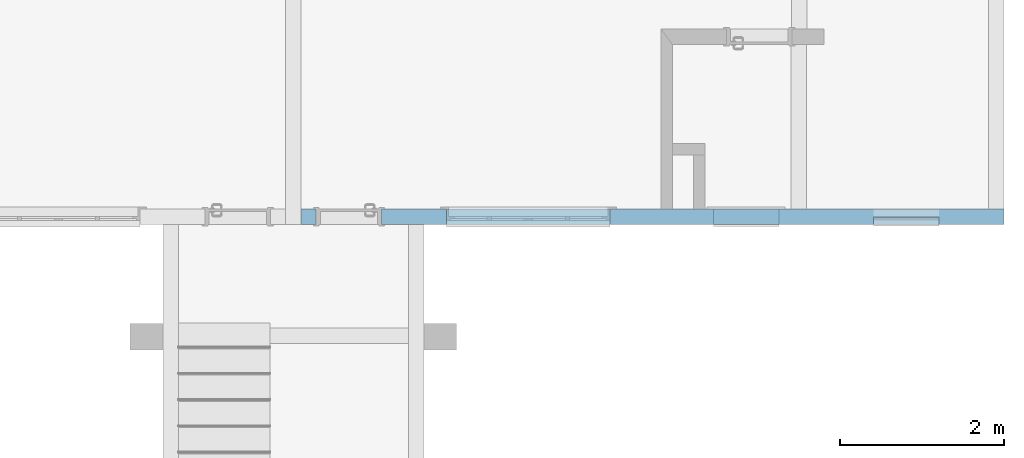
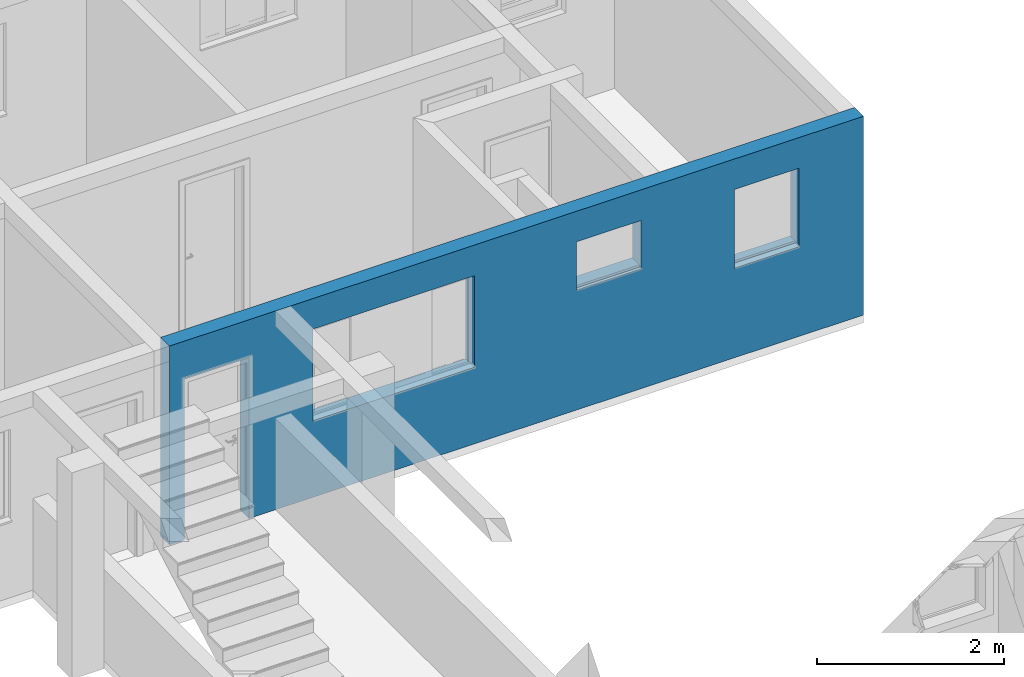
# One storey, part 27 of 43: 1 wall, 4 openings.
"""IFC2X3 building model written with IfcOpenShell, lengths in millimetres."""

from ifc_helpers import new_model, entity, si_unit, converted_unit, derived_unit, money_unit, direction, frame, origin_with_axes, origin_2d_with_axis, place, context, subcontext, project, spatial, polyline, rectangle, outline, extrude, material, layer, layer_set, layer_usage, type_object, element, save


model = new_model("IFC2X3")

# Units and contexts
model_context = context("Model", 3, precision=0.01, world=origin_with_axes(), true_north=direction((0.0, 1.0)))
body_context = subcontext(model_context, "Body", "Model", "MODEL_VIEW")
ifc_project = project(units=[si_unit("LENGTHUNIT", "METRE", prefix="MILLI"), si_unit("AREAUNIT", "SQUARE_METRE"), si_unit("VOLUMEUNIT", "CUBIC_METRE"), converted_unit("PLANEANGLEUNIT", "DEGREE", entity("IfcPlaneAngleMeasure", 0.0174532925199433), si_unit("PLANEANGLEUNIT", "RADIAN"), dimensions=[0, 0, 0, 0, 0, 0, 0]), money_unit("USD"), converted_unit("TIMEUNIT", "Year", entity("IfcTimeMeasure", 31557600.0), si_unit("TIMEUNIT", "SECOND"), dimensions=[0, 0, 1, 0, 0, 0, 0]), si_unit("MASSUNIT", "GRAM", prefix="KILO"), si_unit("THERMODYNAMICTEMPERATUREUNIT", "DEGREE_CELSIUS"), si_unit("LUMINOUSINTENSITYUNIT", "LUMEN"), si_unit("ENERGYUNIT", "JOULE", prefix="MEGA"), derived_unit("THERMALCONDUCTANCEUNIT", [(si_unit("POWERUNIT", "WATT"), 1), (si_unit("LENGTHUNIT", "METRE"), -1), (si_unit("THERMODYNAMICTEMPERATUREUNIT", "KELVIN"), -1)]), derived_unit("SPECIFICHEATCAPACITYUNIT", [(si_unit("ENERGYUNIT", "JOULE"), 1), (si_unit("MASSUNIT", "GRAM", prefix="KILO"), -1), (si_unit("THERMODYNAMICTEMPERATUREUNIT", "KELVIN"), -1)]), derived_unit("MASSDENSITYUNIT", [(si_unit("MASSUNIT", "GRAM", prefix="KILO"), 1), (si_unit("VOLUMEUNIT", "CUBIC_METRE"), -1)])], contexts=[model_context])

# Site, building, storey
site_placement = place(None, origin_with_axes())
site = spatial("IfcSite", under=ifc_project, at=site_placement, Name="Local", CompositionType="ELEMENT")
building_placement = place(site_placement, origin_with_axes())
building = spatial("IfcBuilding", under=site, at=building_placement, Name="Construção", CompositionType="ELEMENT")
storey_placement = place(building_placement, origin_with_axes())
storey = spatial("IfcBuildingStorey", under=building, at=storey_placement, Name="Pavimento Tipo", CompositionType="ELEMENT", Elevation=0.0)

# Wall, openings
ifc_material = material(Name="Concreto - Estrutural")
ifc_layer = layer(ifc_material, 190.0, ventilated="UNKNOWN")
ifc_layer_set = layer_set([ifc_layer], Name="Concreto - Estrutural 190")
ifc_layer_usage = layer_usage(ifc_layer_set, "AXIS2", "POSITIVE", 0.0)
wall_type = type_object("IfcWallType", Name="Concreto - Estrutural 190", PredefinedType="NOTDEFINED")
wall_placement = place(storey_placement, frame((72476.96486497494, 5832.461520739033, 0.0), z_axis=(0.0, 0.0, 1.0), x_axis=(-1.0, 0.0, 0.0)))
wall = element("IfcWallStandardCase", 1, at=wall_placement, inside=storey, type_object=wall_type, material=ifc_layer_usage, Name="Apartamento 1 - Parede-001", context=body_context, shape_type="SweptSolid", body=[
    extrude(outline(polyline([(0.0, 0.0), (8584.765133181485, 0.0), (8584.765133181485, 190.0000000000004), (0.0, 190.0000000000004), (0.0, 0.0)])), origin_with_axes(), (0.0, 0.0, 1.0), 2600.0),
])
opening_1_placement = place(wall_placement, frame((1195.000000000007, 0.0, 1200.0), z_axis=(0.0, 0.0, 1.0), x_axis=(1.0, 0.0, 0.0)))
element("IfcOpeningElement", 2, at=opening_1_placement, cuts=wall, Name="Apartamento 1 - J03", context=body_context, shape_type="SweptSolid", body=[
    extrude(rectangle(XDim=800.0000000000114, YDim=1000.0, at=origin_2d_with_axis()), frame((0.0, 139.9999999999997, 500.0), z_axis=(0.0, -1.0, 0.0), x_axis=(-1.0, 0.0, 0.0)), (0.0, 0.0, 1.0), 330.0),
    extrude(rectangle(XDim=800.0000000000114, YDim=1000.0, at=origin_2d_with_axis()), frame((0.0, 139.9999999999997, 500.0), z_axis=(0.0, 1.0, 0.0), x_axis=(-1.0, 0.0, 0.0)), (0.0, 0.0, 1.0), 240.0),
    extrude(rectangle(XDim=800.0000000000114, YDim=30.00000000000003, at=origin_2d_with_axis()), frame((0.0, 104.9999999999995, -14.9999999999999), z_axis=(0.0, 1.0, 0.0), x_axis=(-1.0, 0.0, 0.0)), (0.0, 0.0, 1.0), 225.0),
])
opening_2_placement = place(wall_placement, frame((3149.999999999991, 0.0, 1600.0), z_axis=(0.0, 0.0, 1.0), x_axis=(1.0, 0.0, 0.0)))
element("IfcOpeningElement", 3, at=opening_2_placement, cuts=wall, Name="Apartamento 1 - J02", context=body_context, shape_type="SweptSolid", body=[
    extrude(rectangle(XDim=800.0000000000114, YDim=600.0000000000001, at=origin_2d_with_axis()), frame((0.0, -190.0000000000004, 300.0000000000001), z_axis=(0.0, -1.0, 0.0), x_axis=(-1.0, 0.0, 0.0)), (0.0, 0.0, -1.0), 570.0000000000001),
    extrude(rectangle(XDim=800.0000000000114, YDim=30.00000000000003, at=origin_2d_with_axis()), frame((0.0, 155.0000000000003, -14.9999999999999), z_axis=(0.0, 1.0, 0.0), x_axis=(-1.0, 0.0, 0.0)), (0.0, 0.0, 1.0), 225.0),
    extrude(rectangle(XDim=949.9999999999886, YDim=750.0000000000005, at=origin_2d_with_axis()), frame((0.0, 0.0, 300.0000000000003), z_axis=(0.0, -1.0, 0.0), x_axis=(-1.0, 0.0, 0.0)), (0.0, 0.0, 1.0), 190.0),
])
opening_3_placement = place(wall_placement, frame((5810.000000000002, 0.0, 1000.0), z_axis=(0.0, 0.0, 1.0), x_axis=(1.0, 0.0, 0.0)))
element("IfcOpeningElement", 4, at=opening_3_placement, cuts=wall, Name="Apartamento 1 - J01", context=body_context, shape_type="SweptSolid", body=[
    extrude(rectangle(XDim=2000.0, YDim=1200.0, at=origin_2d_with_axis()), frame((0.0, 139.9999999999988, 600.0000000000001), z_axis=(0.0, 1.0, 0.0), x_axis=(1.0, 0.0, 0.0)), (0.0, 0.0, -1.0), 330.0),
    extrude(rectangle(XDim=2000.0, YDim=1200.0, at=origin_2d_with_axis()), frame((0.0, 139.9999999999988, 600.0000000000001), z_axis=(0.0, -1.0, 0.0), x_axis=(1.0, 0.0, 0.0)), (0.0, 0.0, -1.0), 240.0),
    extrude(rectangle(XDim=2150.000000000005, YDim=1350.0, at=origin_2d_with_axis()), frame((0.0, 0.0, 599.9999999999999), z_axis=(0.0, 1.0, 0.0), x_axis=(1.0, 0.0, 0.0)), (0.0, 0.0, -1.0), 240.0),
])
opening_4_placement = place(wall_placement, frame((8000.0, 0.0, 0.0), z_axis=(0.0, 0.0, 1.0), x_axis=(1.0, 0.0, 0.0)))
element("IfcOpeningElement", 5, at=opening_4_placement, cuts=wall, Name="Apartamento 1 - P01", context=body_context, shape_type="SweptSolid", body=[
    extrude(rectangle(XDim=800.0000000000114, YDim=2100.0, at=origin_2d_with_axis()), frame((0.0, -190.0000000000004, 1050.0), z_axis=(0.0, -1.0, 0.0), x_axis=(1.0, 0.0, 0.0)), (0.0, 0.0, -1.0), 570.0000000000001),
    extrude(rectangle(XDim=870.0000000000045, YDim=2135.0, at=origin_2d_with_axis()), frame((0.0, 0.0, 1067.5), z_axis=(0.0, -1.0, 0.0), x_axis=(1.0, 0.0, 0.0)), (0.0, 0.0, 1.0), 190.0),
    extrude(rectangle(XDim=870.0000000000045, YDim=2135.0, at=origin_2d_with_axis()), frame((0.0, 189.9999999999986, 1067.5), z_axis=(0.0, 1.0, 0.0), x_axis=(1.0, 0.0, 0.0)), (0.0, 0.0, 1.0), 190.0),
])

save(model, "model.ifc")
